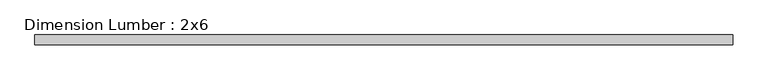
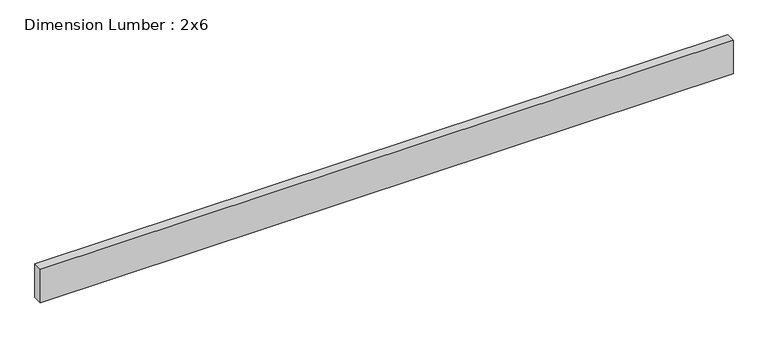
"""IFC4 building model written with IfcOpenShell, lengths in millimetres: beam geometry, Dimension Lumber : 2x6."""

from ifc_helpers import new_model, si_unit, frame, origin, place, context, project, spatial, polyline, outline, extrude, source, transform, mapped, element, save


def dimension_lumber_2x6_e1981d56(model_context):
    return source(origin(), model_context, "Body", "SweptSolid", [
        extrude(outline(polyline([(1371.6, 19.05), (1371.6, -19.05), (-1371.6, -19.05), (-1371.6, 19.05), (1371.6, 19.05)])), frame((0.0, 0.0, -69.85), z_axis=(0.0, 0.0, 1.0), x_axis=(1.0, 0.0, 0.0)), (0.0, 0.0, 1.0), 139.7),
    ])


if __name__ == "__main__":
    model = new_model("IFC4")
    model_context = context("Model", 3, world=origin())
    ifc_project = project(units=[si_unit("LENGTHUNIT", "METRE", prefix="MILLI")], contexts=[model_context])
    site = spatial("IfcSite", under=ifc_project)
    building = spatial("IfcBuilding", under=site)
    placement = place(None, origin())
    dimension_lumber_2x6_shape = dimension_lumber_2x6_e1981d56(model_context)
    element("IfcBeam", 1, ObjectType="Dimension Lumber : 2x6", at=placement, inside=building, context=model_context, shape_type="MappedRepresentation", body=[
        mapped(dimension_lumber_2x6_shape, transform((0.0, 0.0, 0.0), x_axis=(1.0, 0.0, 0.0), y_axis=(0.0, 1.0, 0.0), z_axis=(0.0, 0.0, 1.0))),
    ])
    save(model, "model.ifc")
